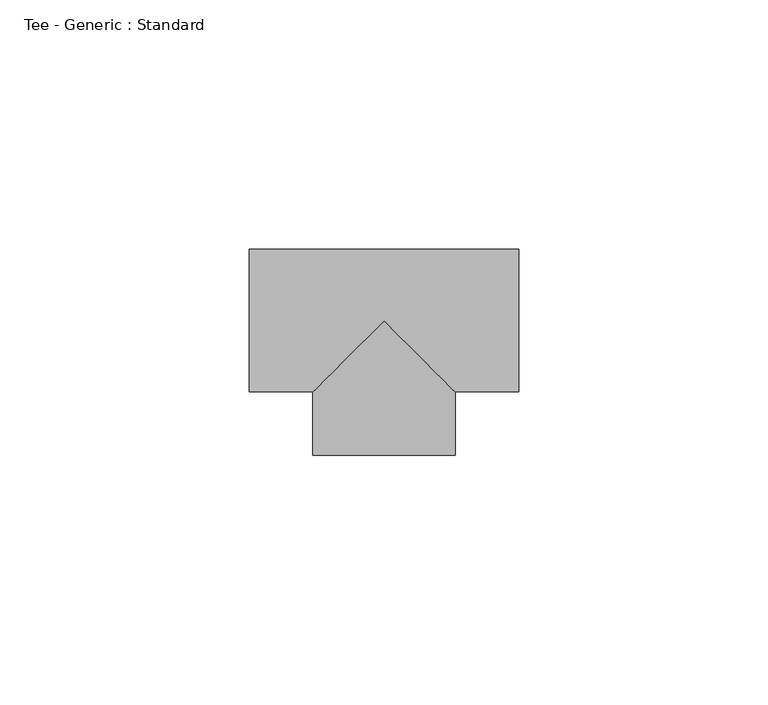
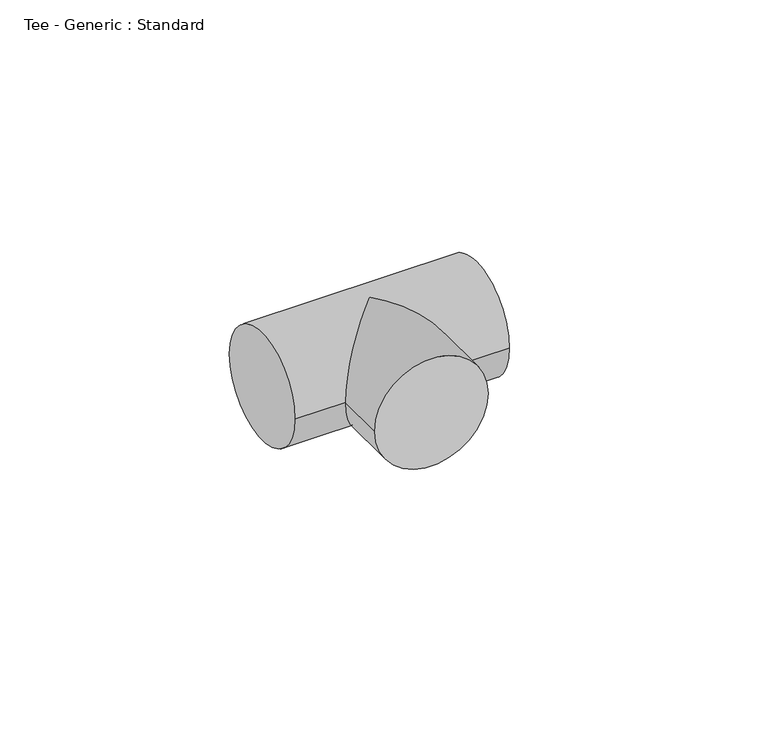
"""IFC4 building model written with IfcOpenShell, lengths in millimetres: pipe fitting geometry, Tee - Generic : Standard."""

from ifc_helpers import new_model, si_unit, frame, origin, place, context, project, spatial, circle_curve, ellipse_curve, source, transform, mapped, element, save
from ifc_brep_helpers import plane_surface, cylinder_surface, advanced_brep


def tee_generic_standard_d345b28c(model_context):
    return source(origin(), model_context, "Body", "AdvancedBrep", [
        advanced_brep(
        [(-26.9875, -14.2875, 0.0), (-26.9875, 14.2875, 0.0), (26.9875, -14.2875, 0.0), (26.9875, 14.2875, 0.0), (-14.2875, -14.2875, 0.0), (0.0, 0.0, 14.2875), (14.2875, -14.2875, 0.0), (0.0, 0.0, -14.2875), (-14.2875, -26.9875, 0.0), (14.2875, -26.9875, 0.0)],
        [
            (0, 1, circle_curve(frame((-26.9875, 0.0, 0.0), z_axis=(-1.0, 0.0, 0.0), x_axis=(0.0, 1.0, 0.0)), 14.2875)),
            (1, 0, circle_curve(frame((-26.9875, 0.0, 0.0), z_axis=(-1.0, 0.0, 0.0), x_axis=(0.0, 1.0, 0.0)), 14.2875)),
            (2, 3, circle_curve(frame((26.9875, 0.0, 0.0), z_axis=(1.0, 0.0, 0.0), x_axis=(0.0, 1.0, 0.0)), 14.2875)),
            (3, 2, circle_curve(frame((26.9875, 0.0, 0.0), z_axis=(1.0, 0.0, 0.0), x_axis=(0.0, 1.0, 0.0)), 14.2875)),
            (0, 4),
            (4, 5, ellipse_curve(frame((0.0, 0.0, 0.0), z_axis=(-0.707106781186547, 0.7071067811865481, 0.0), x_axis=(-0.707106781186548, -0.707106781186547, 0.0)), 20.2055763, 14.2875)),
            (5, 6, ellipse_curve(frame((0.0, 0.0, 0.0), z_axis=(0.7071067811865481, 0.7071067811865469, 0.0), x_axis=(-0.7071067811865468, 0.7071067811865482, 0.0)), 20.2055763, 14.2875)),
            (6, 2),
            (3, 1),
            (6, 7, ellipse_curve(frame((0.0, 0.0, 0.0), z_axis=(0.7071067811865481, 0.7071067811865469, 0.0), x_axis=(-0.7071067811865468, 0.7071067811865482, 0.0)), 20.2055763, 14.2875)),
            (7, 4, ellipse_curve(frame((0.0, 0.0, 0.0), z_axis=(-0.707106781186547, 0.7071067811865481, 0.0), x_axis=(-0.707106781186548, -0.707106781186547, 0.0)), 20.2055763, 14.2875)),
            (8, 9, circle_curve(frame((0.0, -26.9875, 0.0), z_axis=(0.0, -1.0, 0.0), x_axis=(1.0, 0.0, 0.0)), 14.2875)),
            (9, 8, circle_curve(frame((0.0, -26.9875, 0.0), z_axis=(0.0, -1.0, 0.0), x_axis=(1.0, 0.0, 0.0)), 14.2875)),
            (9, 6),
            (4, 8),
        ],
        [
            plane_surface(frame((-26.9875, 0.0, 0.0), z_axis=(-1.0, 0.0, 0.0), x_axis=(0.0, 0.0, 1.0))),
            plane_surface(frame((26.9875, 0.0, 0.0), z_axis=(1.0, 0.0, 0.0), x_axis=(0.0, 0.0, 1.0))),
            cylinder_surface(frame((-26.9875, 0.0, 0.0), z_axis=(-1.0, 0.0, 0.0), x_axis=(0.0, 1.0, 0.0)), 14.2875),
            plane_surface(frame((0.0, -26.9875, 0.0), z_axis=(0.0, -1.0, 0.0), x_axis=(0.0, 0.0, 1.0))),
            cylinder_surface(frame((0.0, 0.0, 0.0), z_axis=(0.0, 1.0, 0.0), x_axis=(1.0, 0.0, 0.0)), 14.2875),
        ],
        [
            (0, [[1, 2]]),
            (1, [[3, 4]]),
            (2, [[-1, 5, 6, 7, 8, -4, 9]]),
            (2, [[-2, -9, -3, -8, 10, 11, -5]]),
            (3, [[12, 13]]),
            (4, [[-13, 14, -7, -6, 15]]),
            (4, [[-12, -15, -11, -10, -14]]),
        ],
    ),
    ])


if __name__ == "__main__":
    model = new_model("IFC4")
    model_context = context("Model", 3, world=origin())
    ifc_project = project(units=[si_unit("LENGTHUNIT", "METRE", prefix="MILLI")], contexts=[model_context])
    site = spatial("IfcSite", under=ifc_project)
    building = spatial("IfcBuilding", under=site)
    placement = place(None, origin())
    tee_generic_standard_shape = tee_generic_standard_d345b28c(model_context)
    element("IfcPipeFitting", 1, ObjectType="Tee - Generic : Standard", at=placement, inside=building, context=model_context, shape_type="MappedRepresentation", body=[
        mapped(tee_generic_standard_shape, transform((0.0, 0.0, 0.0), x_axis=(1.0, 0.0, 0.0), y_axis=(0.0, 1.0, 0.0), z_axis=(0.0, 0.0, 1.0))),
    ])
    save(model, "model.ifc")
